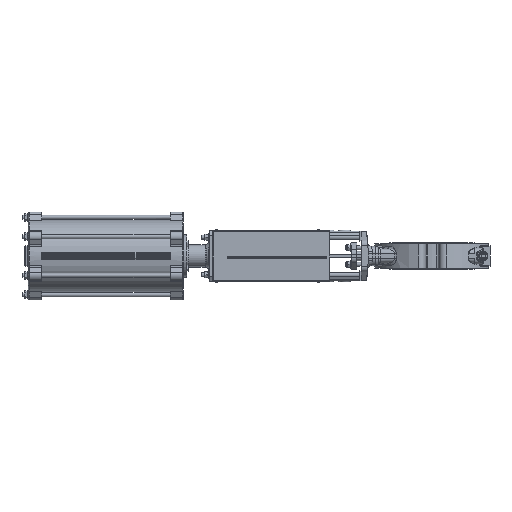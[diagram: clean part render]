
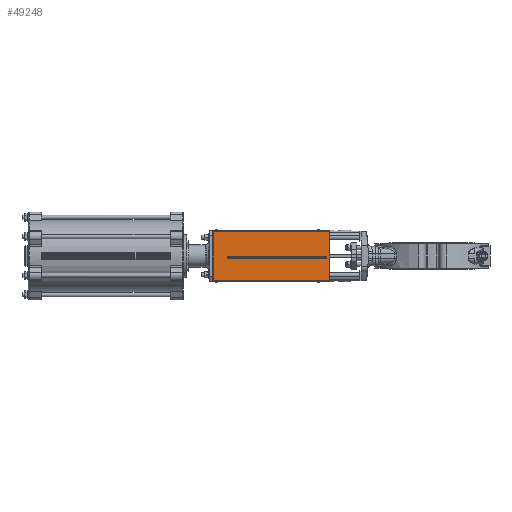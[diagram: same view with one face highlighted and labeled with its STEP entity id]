
A CAD part, left-side view. The second image highlights one B-rep face of the part: STEP entity #49248.
In plain terms, the highlighted planar face has unit normal (-1, 0, 0).
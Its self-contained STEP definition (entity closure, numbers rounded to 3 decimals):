
#1517=FACE_BOUND('',#8846,.T.);
#2332=PLANE('',#54665);
#5693=FACE_OUTER_BOUND('',#8845,.T.);
#8845=EDGE_LOOP('',(#41002,#41003,#41004,#41005));
#8846=EDGE_LOOP('',(#41006,#41007,#41008,#41009));
#12149=CIRCLE('',#54629,3.);
#12151=CIRCLE('',#54633,3.);
#15631=LINE('',#92891,#17956);
#15634=LINE('',#92904,#17959);
#15642=LINE('',#92927,#17967);
#15657=LINE('',#92955,#17982);
#15661=LINE('',#92967,#17986);
#15679=LINE('',#93023,#18004);
#17956=VECTOR('',#67164,1.);
#17959=VECTOR('',#67177,1.);
#17967=VECTOR('',#67199,1.);
#17982=VECTOR('',#67222,1.);
#17986=VECTOR('',#67234,1.);
#18004=VECTOR('',#67318,1.);
#21996=VERTEX_POINT('',#92884);
#21999=VERTEX_POINT('',#92889);
#22004=VERTEX_POINT('',#92902);
#22012=VERTEX_POINT('',#92925);
#22020=VERTEX_POINT('',#92952);
#22021=VERTEX_POINT('',#92954);
#22023=VERTEX_POINT('',#92960);
#22025=VERTEX_POINT('',#92966);
#28428=EDGE_CURVE('',#21999,#21996,#15631,.T.);
#28434=EDGE_CURVE('',#21999,#22004,#15634,.T.);
#28447=EDGE_CURVE('',#22004,#22012,#15642,.T.);
#28462=EDGE_CURVE('',#22021,#22020,#15657,.T.);
#28465=EDGE_CURVE('',#22023,#22021,#12149,.T.);
#28468=EDGE_CURVE('',#22025,#22023,#15661,.T.);
#28471=EDGE_CURVE('',#22020,#22025,#12151,.T.);
#28502=EDGE_CURVE('',#21996,#22012,#15679,.T.);
#41002=ORIENTED_EDGE('',*,*,#28502,.F.);
#41003=ORIENTED_EDGE('',*,*,#28428,.F.);
#41004=ORIENTED_EDGE('',*,*,#28434,.T.);
#41005=ORIENTED_EDGE('',*,*,#28447,.T.);
#41006=ORIENTED_EDGE('',*,*,#28462,.T.);
#41007=ORIENTED_EDGE('',*,*,#28471,.T.);
#41008=ORIENTED_EDGE('',*,*,#28468,.T.);
#41009=ORIENTED_EDGE('',*,*,#28465,.T.);
#49248=ADVANCED_FACE('',(#5693,#1517),#2332,.F.);
#54629=AXIS2_PLACEMENT_3D('',#92961,#67228,#67229);
#54633=AXIS2_PLACEMENT_3D('',#92971,#67240,#67241);
#54665=AXIS2_PLACEMENT_3D('',#93026,#67322,#67323);
#67164=DIRECTION('',(0.,0.,1.));
#67177=DIRECTION('',(0.,-1.,0.));
#67199=DIRECTION('',(0.,0.,1.));
#67222=DIRECTION('',(0.,1.,0.));
#67228=DIRECTION('center_axis',(1.,0.,0.));
#67229=DIRECTION('ref_axis',(0.,-1.,0.));
#67234=DIRECTION('',(0.,-1.,0.));
#67240=DIRECTION('center_axis',(1.,0.,0.));
#67241=DIRECTION('ref_axis',(0.,-1.,0.));
#67318=DIRECTION('',(0.,-1.,0.));
#67322=DIRECTION('center_axis',(1.,0.,0.));
#67323=DIRECTION('ref_axis',(0.,0.,
-1.));
#92884=CARTESIAN_POINT('',(-126.,639.,71.5));
#92889=CARTESIAN_POINT('',(-126.,639.,-71.5));
#92891=CARTESIAN_POINT('',(-126.,639.,-71.5));
#92902=CARTESIAN_POINT('',(-126.,299.,-71.5));
#92904=CARTESIAN_POINT('',(-126.,639.,-71.5));
#92925=CARTESIAN_POINT('',(-126.,299.,71.5));
#92927=CARTESIAN_POINT('',(-126.,299.,-71.5));
#92952=CARTESIAN_POINT('',(-126.,594.,-8.));
#92954=CARTESIAN_POINT('',(-126.,310.,-8.));
#92955=CARTESIAN_POINT('',(-126.,310.,-8.));
#92960=CARTESIAN_POINT('',(-126.,310.,-2.));
#92961=CARTESIAN_POINT('Origin',(-126.,310.,-5.));
#92966=CARTESIAN_POINT('',(-126.,594.,-2.));
#92967=CARTESIAN_POINT('',(-126.,594.,-2.));
#92971=CARTESIAN_POINT('Origin',(-126.,594.,-5.));
#93023=CARTESIAN_POINT('',(-126.,639.,71.5));
#93026=CARTESIAN_POINT('Origin',(-126.,639.,-71.5));
